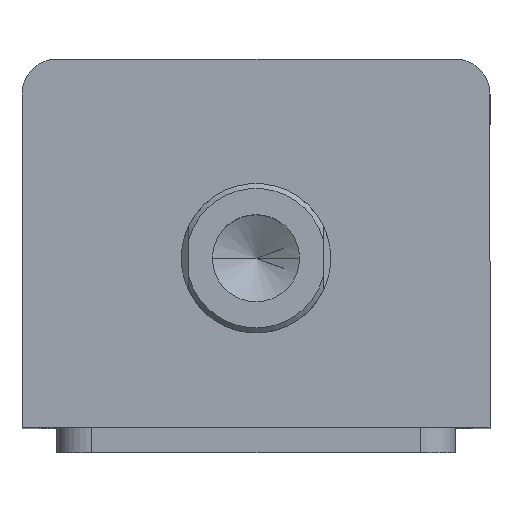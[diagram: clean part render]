
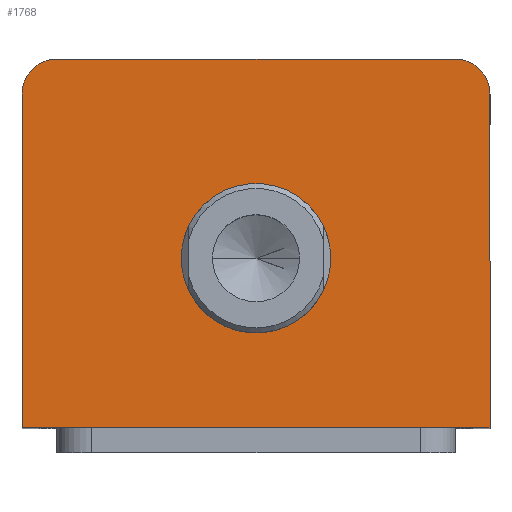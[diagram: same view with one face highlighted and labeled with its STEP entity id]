
A CAD part, top view. The second image highlights one B-rep face of the part: STEP entity #1768.
In plain terms, the highlighted planar face has unit normal (0, 0, 1).
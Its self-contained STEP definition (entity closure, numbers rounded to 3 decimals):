
#91 = PLANE ( 'NONE',  #2218 ) ;
#124 = CARTESIAN_POINT ( 'NONE',  ( 0., 0., 120. ) ) ;
#132 = DIRECTION ( 'NONE',  ( 0., 0., 1. ) ) ;
#133 = DIRECTION ( 'NONE',  ( 1., 0., 0. ) ) ;
#327 = VERTEX_POINT ( 'NONE', #1986 ) ;
#339 = VERTEX_POINT ( 'NONE', #1977 ) ;
#347 = VERTEX_POINT ( 'NONE', #1969 ) ;
#358 = VERTEX_POINT ( 'NONE', #1954 ) ;
#397 = VERTEX_POINT ( 'NONE', #1906 ) ;
#408 = VERTEX_POINT ( 'NONE', #1891 ) ;
#433 = VERTEX_POINT ( 'NONE', #1860 ) ;
#445 = VERTEX_POINT ( 'NONE', #1847 ) ;
#693 = AXIS2_PLACEMENT_3D ( 'NONE', #777, #776, #775 ) ;
#697 = DIRECTION ( 'NONE',  ( 1., 0., 0. ) ) ;
#698 = CARTESIAN_POINT ( 'NONE',  ( -47., -37., 120. ) ) ;
#775 = DIRECTION ( 'NONE',  ( 1., 0., 0. ) ) ;
#776 = DIRECTION ( 'NONE',  ( 0., 0., 1. ) ) ;
#777 = CARTESIAN_POINT ( 'NONE',  ( 0., -3., 120. ) ) ;
#1006 = FACE_BOUND ( 'NONE', #2775, .T. ) ;
#1010 = FACE_OUTER_BOUND ( 'NONE', #2779, .T. ) ;
#1122 = LINE ( 'NONE', #1680, #1129 ) ;
#1129 = VECTOR ( 'NONE', #1667, 1000. ) ;
#1140 = CIRCLE ( 'NONE', #1305, 7. ) ;
#1169 = LINE ( 'NONE', #1554, #1172 ) ;
#1171 = CIRCLE ( 'NONE', #1299, 7. ) ;
#1172 = VECTOR ( 'NONE', #1552, 1000. ) ;
#1200 = LINE ( 'NONE', #1468, #1203 ) ;
#1203 = VECTOR ( 'NONE', #1466, 1000. ) ;
#1231 = CIRCLE ( 'NONE', #1287, 15. ) ;
#1287 = AXIS2_PLACEMENT_3D ( 'NONE', #1414, #1412, #1411 ) ;
#1299 = AXIS2_PLACEMENT_3D ( 'NONE', #1551, #1550, #1549 ) ;
#1305 = AXIS2_PLACEMENT_3D ( 'NONE', #1621, #1619, #1618 ) ;
#1411 = DIRECTION ( 'NONE',  ( 1., 0., 0. ) ) ;
#1412 = DIRECTION ( 'NONE',  ( 0., 0., 1. ) ) ;
#1414 = CARTESIAN_POINT ( 'NONE',  ( 0., -3., 120. ) ) ;
#1466 = DIRECTION ( 'NONE',  ( 0., -1., 0. ) ) ;
#1468 = CARTESIAN_POINT ( 'NONE',  ( -47., 37., 120. ) ) ;
#1549 = DIRECTION ( 'NONE',  ( 1., 0., 0. ) ) ;
#1550 = DIRECTION ( 'NONE',  ( 0., 0., 1. ) ) ;
#1551 = CARTESIAN_POINT ( 'NONE',  ( -40., 30., 120. ) ) ;
#1552 = DIRECTION ( 'NONE',  ( 0., 1., 0. ) ) ;
#1554 = CARTESIAN_POINT ( 'NONE',  ( 47., 37., 120. ) ) ;
#1618 = DIRECTION ( 'NONE',  ( 1., 0., 0. ) ) ;
#1619 = DIRECTION ( 'NONE',  ( 0., 0., 1. ) ) ;
#1621 = CARTESIAN_POINT ( 'NONE',  ( 40., 30., 120. ) ) ;
#1667 = DIRECTION ( 'NONE',  ( -1., 0., 0. ) ) ;
#1680 = CARTESIAN_POINT ( 'NONE',  ( -47., 37., 120. ) ) ;
#1768 = ADVANCED_FACE ( 'NONE', ( #1006, #1010 ), #91, .T. ) ;
#1847 = CARTESIAN_POINT ( 'NONE',  ( 15., -3., 120. ) ) ;
#1860 = CARTESIAN_POINT ( 'NONE',  ( -47., 30., 120. ) ) ;
#1891 = CARTESIAN_POINT ( 'NONE',  ( 47., 30., 120. ) ) ;
#1906 = CARTESIAN_POINT ( 'NONE',  ( -40., 37., 120. ) ) ;
#1954 = CARTESIAN_POINT ( 'NONE',  ( 47., -37., 120. ) ) ;
#1969 = CARTESIAN_POINT ( 'NONE',  ( -47., -37., 120. ) ) ;
#1977 = CARTESIAN_POINT ( 'NONE',  ( -15., -3., 120. ) ) ;
#1986 = CARTESIAN_POINT ( 'NONE',  ( 40., 37., 120. ) ) ;
#2218 = AXIS2_PLACEMENT_3D ( 'NONE', #124, #132, #133 ) ;
#2280 = EDGE_CURVE ( 'NONE', #327, #397, #1122, .T. ) ;
#2290 = EDGE_CURVE ( 'NONE', #408, #327, #1140, .T. ) ;
#2307 = EDGE_CURVE ( 'NONE', #358, #408, #1169, .T. ) ;
#2308 = EDGE_CURVE ( 'NONE', #397, #433, #1171, .T. ) ;
#2328 = EDGE_CURVE ( 'NONE', #433, #347, #1200, .T. ) ;
#2344 = EDGE_CURVE ( 'NONE', #445, #339, #1231, .T. ) ;
#2466 = EDGE_CURVE ( 'NONE', #339, #445, #2883, .T. ) ;
#2488 = EDGE_CURVE ( 'NONE', #347, #358, #2915, .T. ) ;
#2662 = ORIENTED_EDGE ( 'NONE', *, *, #2290, .T. ) ;
#2663 = ORIENTED_EDGE ( 'NONE', *, *, #2307, .T. ) ;
#2665 = ORIENTED_EDGE ( 'NONE', *, *, #2488, .T. ) ;
#2666 = ORIENTED_EDGE ( 'NONE', *, *, #2328, .T. ) ;
#2667 = ORIENTED_EDGE ( 'NONE', *, *, #2308, .T. ) ;
#2668 = ORIENTED_EDGE ( 'NONE', *, *, #2280, .T. ) ;
#2669 = ORIENTED_EDGE ( 'NONE', *, *, #2466, .F. ) ;
#2670 = ORIENTED_EDGE ( 'NONE', *, *, #2344, .F. ) ;
#2775 = EDGE_LOOP ( 'NONE', ( #2670, #2669 ) ) ;
#2779 = EDGE_LOOP ( 'NONE', ( #2668, #2667, #2666, #2665, #2663, #2662 ) ) ;
#2883 = CIRCLE ( 'NONE', #693, 15. ) ;
#2915 = LINE ( 'NONE', #698, #2918 ) ;
#2918 = VECTOR ( 'NONE', #697, 1000. ) ;
